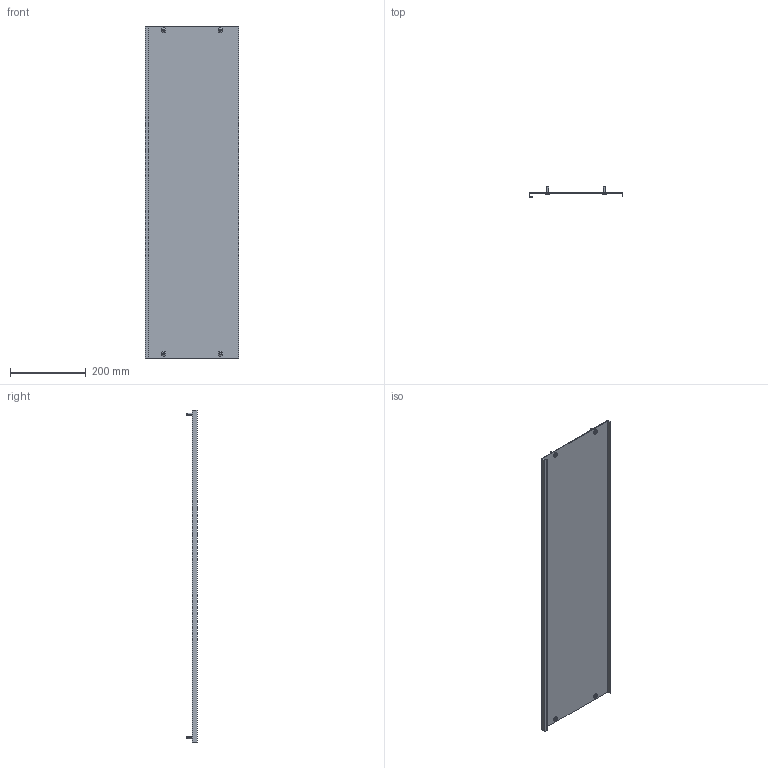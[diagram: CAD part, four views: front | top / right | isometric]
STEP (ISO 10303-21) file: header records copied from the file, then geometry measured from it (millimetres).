
FILE_DESCRIPTION (( 'STEP AP214' ), '1' );
FILE_NAME ('FO-00-PVS-025-100 Ïëàñòðîí ãëóõîé âíóòðåííèé 250õ1000.STEP', '2025-09-30T07:51:30', ( '' ), ( '' ), 'SwSTEP 2.0', 'SolidWorks 2023', '' );
FILE_SCHEMA (( 'AUTOMOTIVE_DESIGN' ));
Length unit declared in the file: millimetre
Products named in the file (3): Винт M6x16 025-100 IEK; FO-00-PVS-025-100 Пластрон глухой внутренний 250х1000
Assembly tree (3 placements, depth 2):
  FO-00-PVS-025-100 Пластрон глухой внутренний 250х1000
    FO-00-PVS-025-100 Пластрон глухой внутренний 250х1000
    Винт M6x16 025-100 IEK  x2
Bounding box: 248 x 27 x 879 mm (x, y, z)
Volume: 364113.5 mm3; surface area: 487533.5 mm2
Topology: 5 solids, 5 shells, 150 faces, 392 edges, 256 vertices
Faces by surface type: cylinder 88, plane 42, cone 12, bspline 8
Entity records: 3233 total; most frequent: CARTESIAN_POINT 724, ORIENTED_EDGE 512, DIRECTION 500, EDGE_CURVE 256, AXIS2_PLACEMENT_3D 180, VERTEX_POINT 168, LINE 140, VECTOR 140
